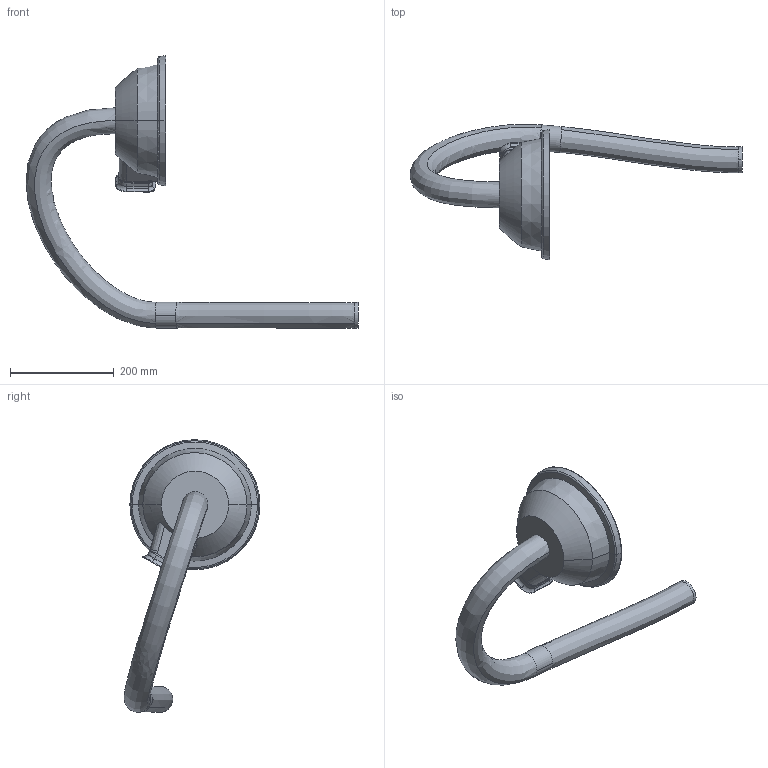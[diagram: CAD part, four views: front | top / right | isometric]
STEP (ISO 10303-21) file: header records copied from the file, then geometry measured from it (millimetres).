
FILE_DESCRIPTION (( 'STEP AP214' ), '1' );
FILE_NAME ('IRB6730-LID-MH_220kg-290_OC_00_LINK03b_CABLE.step', '2026-05-26T09:08:49', ( '' ), ( '' ), 'SwSTEP 2.0', 'SolidWorks 2024', '' );
FILE_SCHEMA (( 'AUTOMOTIVE_DESIGN' ));
Length unit declared in the file: millimetre
Products named in the file (1): IRB6730-LID-MH_220kg-290_OC_00_LINK03b_CABLE
Bounding box: 641.11 x 262.52 x 526.62 mm (x, y, z)
Volume: 5172314.3 mm3; surface area: 306737.5 mm2
Topology: 1 solids, 1 shells, 110 faces, 279 edges, 172 vertices
Faces by surface type: bspline 35, cylinder 28, plane 18, torus 15, cone 14
Entity records: 6978 total; most frequent: CARTESIAN_POINT 4623, ORIENTED_EDGE 558, DIRECTION 405, EDGE_CURVE 279, VERTEX_POINT 172, AXIS2_PLACEMENT_3D 169, EDGE_LOOP 111, FACE_OUTER_BOUND 110
